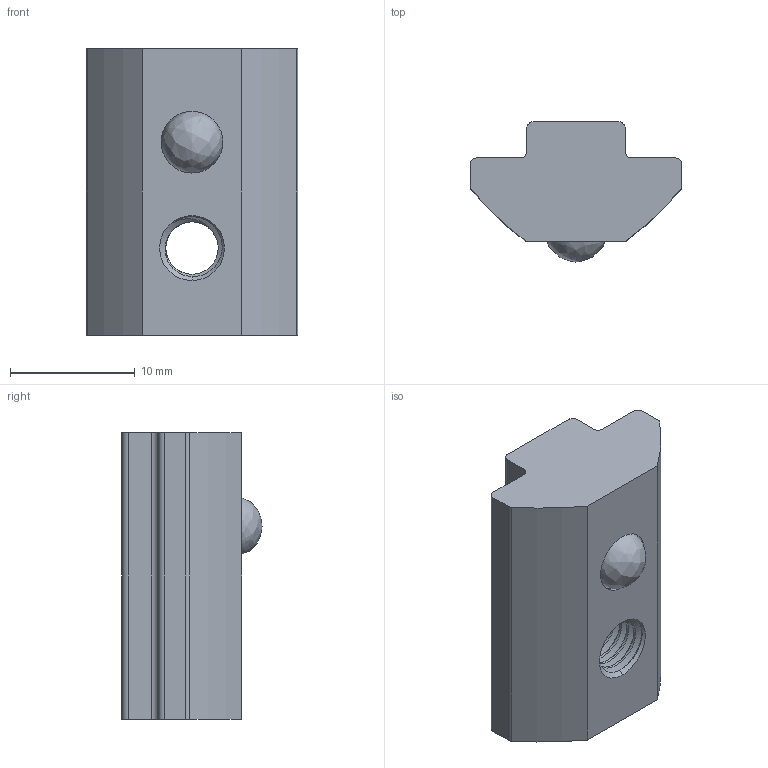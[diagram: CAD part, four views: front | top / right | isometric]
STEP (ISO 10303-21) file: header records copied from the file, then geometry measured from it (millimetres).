
FILE_DESCRIPTION (( 'STEP AP203' ), '1' );
FILE_NAME ('356040_Nutenstein 8 M5 schwer mit Steg und Federkugel.step', '2022-11-24T09:08:46', ( '' ), ( '' ), 'SwSTEP 2.0', 'SolidWorks 2021', '' );
FILE_SCHEMA (( 'CONFIG_CONTROL_DESIGN' ));
Length unit declared in the file: millimetre
Products named in the file (1): 356040_Nutenstein 8 M5 schwer mit Steg und Federkugel
Bounding box: 17 x 11.25 x 23 mm (x, y, z)
Volume: 2523.3 mm3; surface area: 1648.2 mm2
Topology: 1 solids, 2 shells, 59 faces, 161 edges, 107 vertices
Faces by surface type: cylinder 37, plane 11, bspline 6, cone 5
Entity records: 3996 total; most frequent: CARTESIAN_POINT 2567, ORIENTED_EDGE 322, DIRECTION 249, EDGE_CURVE 161, VERTEX_POINT 107, AXIS2_PLACEMENT_3D 92, VECTOR 65, LINE 65
